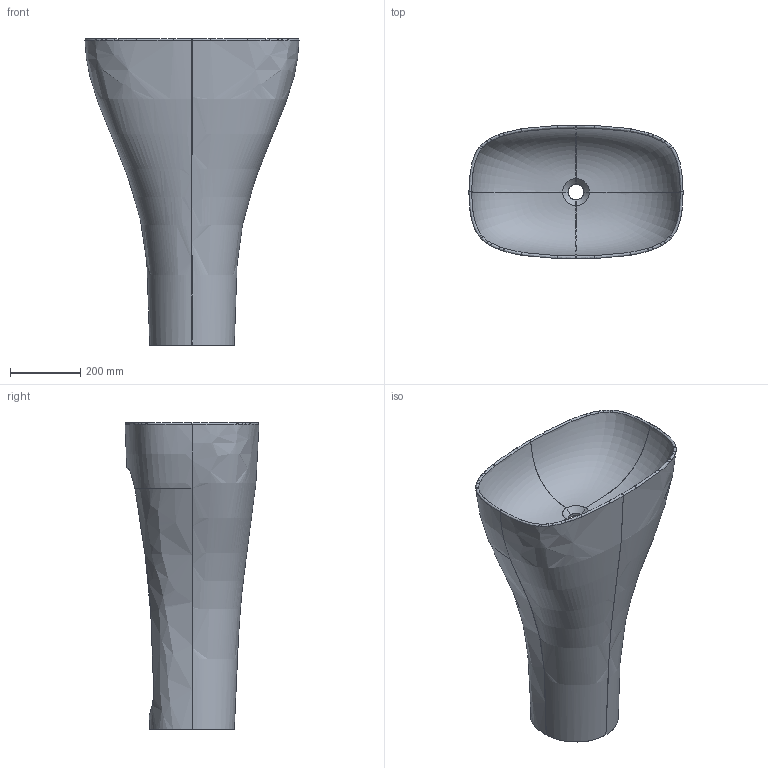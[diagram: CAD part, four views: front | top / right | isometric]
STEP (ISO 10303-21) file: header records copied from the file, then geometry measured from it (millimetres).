
FILE_DESCRIPTION(('CATIA V5 STEP Exchange'),'2;1');
FILE_NAME('C:\Users\167035\Downloads\3D ART 7304 Monolite DREAM.stp','2024-02-07T09:57:41+00:00',('none'),('none'),'CATIA Version 5 Release 19 SP 5 (IN-10)','CATIA V5 STEP AP214','none');
FILE_SCHEMA(('AUTOMOTIVE_DESIGN { 1 0 10303 214 1 1 1 1 }'));
Products named in the file (1): ART 7304 Monolite Dream
Bounding box: 607.84 x 379.77 x 870.37 mm (x, y, z)
Surface area: 1935495.2 mm2 (no closed solid volume)
Topology: 0 solids, 164 shells, 164 faces, 921 edges, 918 vertices
Faces by surface type: bspline 130, cylinder 18, revolution 6, plane 6, extrusion 4
Entity records: 278384 total; most frequent: CARTESIAN_POINT 272294, ORIENTED_EDGE 918, EDGE_CURVE 918, VERTEX_POINT 918, B_SPLINE_CURVE_WITH_KNOTS 846, STYLED_ITEM 164, PRESENTATION_STYLE_ASSIGNMENT 164, SURFACE_STYLE_USAGE 164
